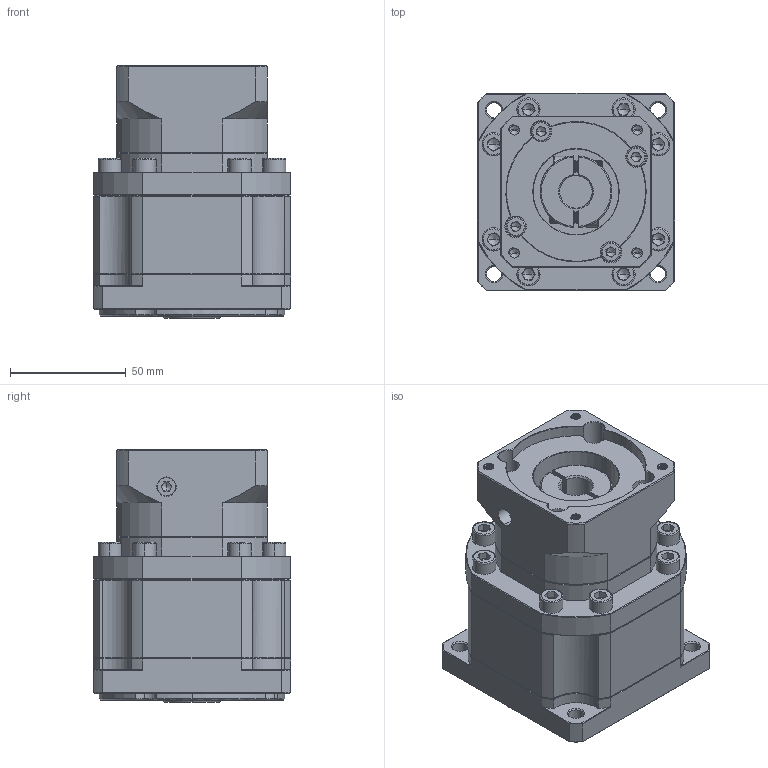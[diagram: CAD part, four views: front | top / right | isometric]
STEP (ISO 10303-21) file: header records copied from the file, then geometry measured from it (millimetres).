
FILE_DESCRIPTION (( 'STEP AP214' ), '1' );
FILE_NAME ('ZB090-K15-L2-P2-14-60-75-M5.step', '2023-08-18T13:40:27', ( '' ), ( '' ), 'SwSTEP 2.0', 'SolidWorks 2016', '' );
FILE_SCHEMA (( 'AUTOMOTIVE_DESIGN' ));
Length unit declared in the file: millimetre
Products named in the file (1): ZB090-K15-L2-P2-14-60-75-M5
Bounding box: 85 x 85 x 109 mm (x, y, z)
Volume: 521263.6 mm3; surface area: 75073.6 mm2
Topology: 6 solids, 6 shells, 2319 faces, 6183 edges, 3955 vertices
Faces by surface type: plane 1178, bspline 416, cylinder 382, cone 321, torus 22
Entity records: 120229 total; most frequent: CARTESIAN_POINT 40110, ORIENTED_EDGE 12278, DIRECTION 9845, EDGE_CURVE 6139, VERTEX_POINT 3955, VECTOR 3909, LINE 3909, AXIS2_PLACEMENT_3D 2968
